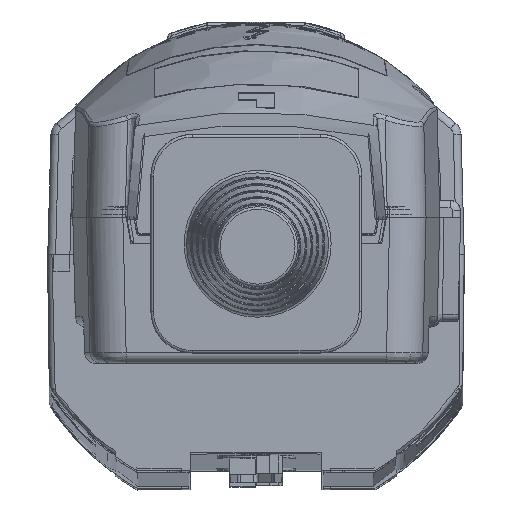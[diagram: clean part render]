
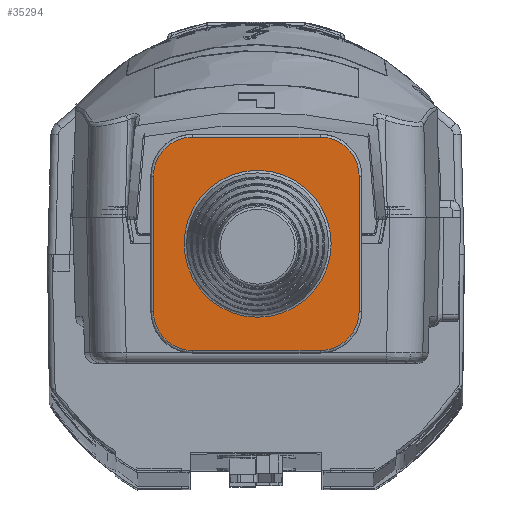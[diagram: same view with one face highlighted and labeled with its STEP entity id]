
A CAD part, top view. The second image highlights one B-rep face of the part: STEP entity #35294.
In plain terms, the highlighted planar face has unit normal (0, -0.026, 1).
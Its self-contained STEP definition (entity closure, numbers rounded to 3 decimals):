
#1136=CIRCLE('',#37841,7.5);
#1140=CIRCLE('',#37846,7.5);
#1144=CIRCLE('',#37851,7.5);
#1148=CIRCLE('',#37856,7.5);
#1149=CIRCLE('',#37859,14.116);
#14457=ORIENTED_EDGE('',*,*,#20003,.F.);
#14458=ORIENTED_EDGE('',*,*,#19986,.F.);
#14459=ORIENTED_EDGE('',*,*,#20004,.F.);
#14460=ORIENTED_EDGE('',*,*,#19994,.F.);
#14461=ORIENTED_EDGE('',*,*,#20005,.F.);
#14462=ORIENTED_EDGE('',*,*,#19998,.F.);
#14463=ORIENTED_EDGE('',*,*,#20006,.F.);
#14464=ORIENTED_EDGE('',*,*,#19990,.F.);
#14465=ORIENTED_EDGE('',*,*,#20007,.F.);
#19986=EDGE_CURVE('',#23486,#23483,#1136,.T.);
#19990=EDGE_CURVE('',#23490,#23487,#1140,.T.);
#19994=EDGE_CURVE('',#23494,#23491,#1144,.T.);
#19998=EDGE_CURVE('',#23498,#23496,#1148,.T.);
#20003=EDGE_CURVE('',#23501,#23501,#1149,.T.);
#20004=EDGE_CURVE('',#23491,#23486,#25916,.T.);
#20005=EDGE_CURVE('',#23496,#23494,#25917,.T.);
#20006=EDGE_CURVE('',#23487,#23498,#25918,.T.);
#20007=EDGE_CURVE('',#23483,#23490,#25919,.T.);
#23483=VERTEX_POINT('',#77188);
#23486=VERTEX_POINT('',#77193);
#23487=VERTEX_POINT('',#77197);
#23490=VERTEX_POINT('',#77202);
#23491=VERTEX_POINT('',#77206);
#23494=VERTEX_POINT('',#77211);
#23496=VERTEX_POINT('',#77216);
#23498=VERTEX_POINT('',#77220);
#23501=VERTEX_POINT('',#77231);
#25916=LINE('',#77232,#28288);
#25917=LINE('',#77233,#28289);
#25918=LINE('',#77234,#28290);
#25919=LINE('',#77235,#28291);
#28288=VECTOR('',#45140,1000.);
#28289=VECTOR('',#45141,1000.);
#28290=VECTOR('',#45142,1000.);
#28291=VECTOR('',#45143,1000.);
#30390=EDGE_LOOP('',(#14457));
#30391=EDGE_LOOP('',(#14458,#14459,#14460,#14461,#14462,#14463,#14464,#14465));
#32502=FACE_BOUND('',#30390,.T.);
#32503=FACE_BOUND('',#30391,.T.);
#33348=PLANE('',#37858);
#35294=ADVANCED_FACE('',(#32502,#32503),#33348,.F.);
#37841=AXIS2_PLACEMENT_3D('',#77194,#45098,#45099);
#37846=AXIS2_PLACEMENT_3D('',#77203,#45108,#45109);
#37851=AXIS2_PLACEMENT_3D('',#77212,#45118,#45119);
#37856=AXIS2_PLACEMENT_3D('',#77221,#45128,#45129);
#37858=AXIS2_PLACEMENT_3D('',#77229,#45136,#45137);
#37859=AXIS2_PLACEMENT_3D('',#77230,#45138,#45139);
#45098=DIRECTION('',(0.,0.026,-1.));
#45099=DIRECTION('',(0.571,0.821,0.021));
#45108=DIRECTION('',(0.,0.026,-1.));
#45109=DIRECTION('',(0.571,-0.821,-0.021));
#45118=DIRECTION('',(0.,0.026,-1.));
#45119=DIRECTION('',(-0.707,0.707,0.019));
#45128=DIRECTION('',(0.,0.026,-1.));
#45129=DIRECTION('',(-0.707,-0.707,-0.019));
#45136=DIRECTION('',(0.,0.026,-1.));
#45137=DIRECTION('',(0.,-1.,-0.026));
#45138=DIRECTION('',(0.,-0.026,1.));
#45139=DIRECTION('',(0.,-1.,-0.026));
#45140=DIRECTION('',(1.,0.,0.));
#45141=DIRECTION('',(0.,1.,0.026));
#45142=DIRECTION('',(-1.,0.,0.));
#45143=DIRECTION('',(0.,-1.,-0.026));
#77188=CARTESIAN_POINT('',(19.5,21.026,89.7));
#77193=CARTESIAN_POINT('',(12.,28.523,89.897));
#77194=CARTESIAN_POINT('',(12.,21.026,89.7));
#77197=CARTESIAN_POINT('',(12.,-12.463,88.824));
#77202=CARTESIAN_POINT('',(19.5,-4.965,89.02));
#77203=CARTESIAN_POINT('',(12.,-4.965,89.02));
#77206=CARTESIAN_POINT('',(-12.5,28.523,89.897));
#77211=CARTESIAN_POINT('',(-20.,21.026,89.7));
#77212=CARTESIAN_POINT('',(-12.5,21.026,89.7));
#77216=CARTESIAN_POINT('',(-20.,-4.965,89.02));
#77220=CARTESIAN_POINT('',(-12.5,-12.463,88.824));
#77221=CARTESIAN_POINT('',(-12.5,-4.965,89.02));
#77229=CARTESIAN_POINT('',(0.,8.03,89.36));
#77230=CARTESIAN_POINT('',(0.,8.03,89.36));
#77231=CARTESIAN_POINT('',(-14.116,8.03,89.36));
#77232=CARTESIAN_POINT('',(-8.,28.523,89.897));
#77233=CARTESIAN_POINT('',(-20.,0.033,89.151));
#77234=CARTESIAN_POINT('',(8.,-12.463,88.824));
#77235=CARTESIAN_POINT('',(19.5,16.028,89.57));
